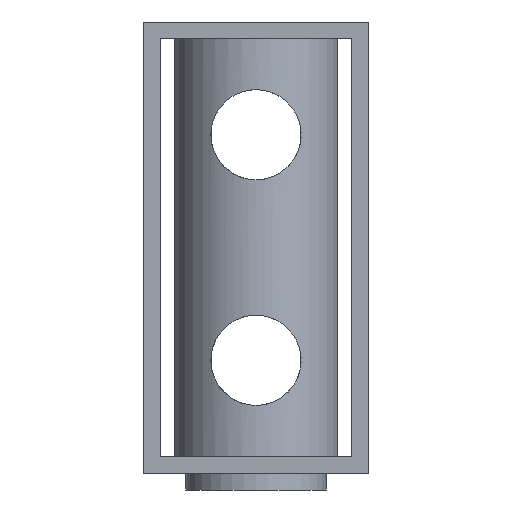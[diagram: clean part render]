
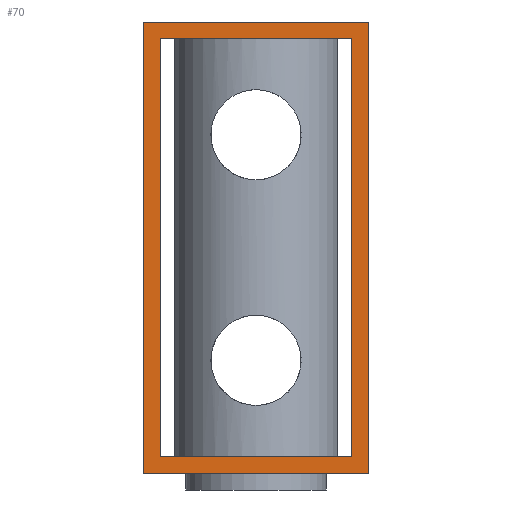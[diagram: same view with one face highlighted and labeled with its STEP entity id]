
A CAD part, front view. The second image highlights one B-rep face of the part: STEP entity #70.
In plain terms, the highlighted planar face has unit normal (0, -1, 0).
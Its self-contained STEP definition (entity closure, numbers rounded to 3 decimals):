
#70 = ADVANCED_FACE( '', ( #164, #165 ), #166, .F. );
#164 = FACE_BOUND( '', #279, .T. );
#165 = FACE_OUTER_BOUND( '', #280, .T. );
#166 = PLANE( '', #281 );
#279 = EDGE_LOOP( '', ( #422, #423, #424, #425 ) );
#280 = EDGE_LOOP( '', ( #426, #427, #428, #429 ) );
#281 = AXIS2_PLACEMENT_3D( '', #430, #431, #432 );
#422 = ORIENTED_EDGE( '', *, *, #571, .T. );
#423 = ORIENTED_EDGE( '', *, *, #555, .T. );
#424 = ORIENTED_EDGE( '', *, *, #549, .T. );
#425 = ORIENTED_EDGE( '', *, *, #538, .T. );
#426 = ORIENTED_EDGE( '', *, *, #572, .F. );
#427 = ORIENTED_EDGE( '', *, *, #573, .F. );
#428 = ORIENTED_EDGE( '', *, *, #559, .F. );
#429 = ORIENTED_EDGE( '', *, *, #574, .F. );
#430 = CARTESIAN_POINT( '', ( 0., -20., 0. ) );
#431 = DIRECTION( '', ( 0., 1., 0. ) );
#432 = DIRECTION( '', ( 0., 0., 1. ) );
#538 = EDGE_CURVE( '', #617, #618, #619, .T. );
#549 = EDGE_CURVE( '', #637, #617, #638, .T. );
#555 = EDGE_CURVE( '', #647, #637, #648, .T. );
#559 = EDGE_CURVE( '', #653, #654, #655, .T. );
#571 = EDGE_CURVE( '', #618, #647, #672, .T. );
#572 = EDGE_CURVE( '', #673, #674, #675, .T. );
#573 = EDGE_CURVE( '', #654, #673, #676, .T. );
#574 = EDGE_CURVE( '', #674, #653, #677, .T. );
#617 = VERTEX_POINT( '', #729 );
#618 = VERTEX_POINT( '', #730 );
#619 = LINE( '', #731, #732 );
#637 = VERTEX_POINT( '', #1029 );
#638 = LINE( '', #1030, #1031 );
#647 = VERTEX_POINT( '', #1042 );
#648 = LINE( '', #1043, #1044 );
#653 = VERTEX_POINT( '', #1051 );
#654 = VERTEX_POINT( '', #1052 );
#655 = LINE( '', #1053, #1054 );
#672 = LINE( '', #1212, #1213 );
#673 = VERTEX_POINT( '', #1214 );
#674 = VERTEX_POINT( '', #1215 );
#675 = LINE( '', #1216, #1217 );
#676 = LINE( '', #1218, #1219 );
#677 = LINE( '', #1220, #1221 );
#729 = CARTESIAN_POINT( '', ( 8.5, -20., -8.5 ) );
#730 = CARTESIAN_POINT( '', ( -8.5, -20., -8.5 ) );
#731 = CARTESIAN_POINT( '', ( 8.5, -20., -8.5 ) );
#732 = VECTOR( '', #1421, 1000. );
#1029 = CARTESIAN_POINT( '', ( 8.5, -20., 28.5 ) );
#1030 = CARTESIAN_POINT( '', ( 8.5, -20., 28.5 ) );
#1031 = VECTOR( '', #1428, 1000. );
#1042 = CARTESIAN_POINT( '', ( -8.5, -20., 28.5 ) );
#1043 = CARTESIAN_POINT( '', ( -8.5, -20., 28.5 ) );
#1044 = VECTOR( '', #1437, 1000. );
#1051 = CARTESIAN_POINT( '', ( 10., -20., 30. ) );
#1052 = CARTESIAN_POINT( '', ( 10., -20., -10. ) );
#1053 = CARTESIAN_POINT( '', ( 10., -20., 30. ) );
#1054 = VECTOR( '', #1440, 1000. );
#1212 = CARTESIAN_POINT( '', ( -8.5, -20., -8.5 ) );
#1213 = VECTOR( '', #1447, 1000. );
#1214 = CARTESIAN_POINT( '', ( -10., -20., -10. ) );
#1215 = CARTESIAN_POINT( '', ( -10., -20., 30. ) );
#1216 = CARTESIAN_POINT( '', ( -10., -20., -10. ) );
#1217 = VECTOR( '', #1448, 1000. );
#1218 = CARTESIAN_POINT( '', ( 10., -20., -10. ) );
#1219 = VECTOR( '', #1449, 1000. );
#1220 = CARTESIAN_POINT( '', ( -10., -20., 30. ) );
#1221 = VECTOR( '', #1450, 1000. );
#1421 = DIRECTION( '', ( -1., 0., 0. ) );
#1428 = DIRECTION( '', ( 0., 0., -1. ) );
#1437 = DIRECTION( '', ( 1., 0., 0. ) );
#1440 = DIRECTION( '', ( 0., 0., -1. ) );
#1447 = DIRECTION( '', ( 0., 0., 1. ) );
#1448 = DIRECTION( '', ( 0., 0., 1. ) );
#1449 = DIRECTION( '', ( -1., 0., 0. ) );
#1450 = DIRECTION( '', ( 1., 0., 0. ) );
